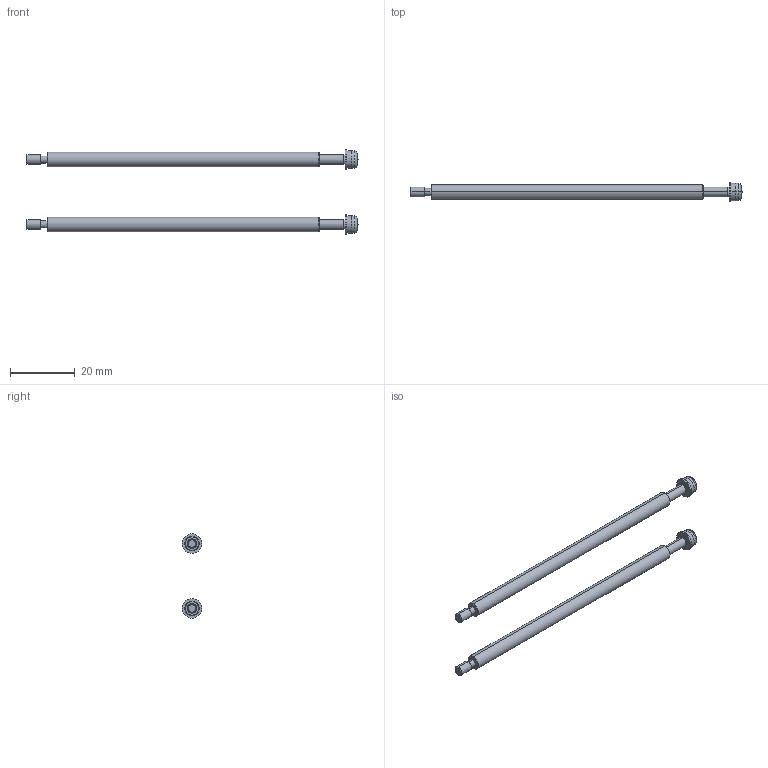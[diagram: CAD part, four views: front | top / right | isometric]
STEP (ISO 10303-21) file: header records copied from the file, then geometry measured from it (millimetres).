
FILE_DESCRIPTION( (''), '2;1');
FILE_NAME ('YS8Z-4.stp','2022-12-01T14:58:37',(''),(''),'spGate 12.6.6','','');
FILE_SCHEMA (('AUTOMOTIVE_DESIGN'));
Length unit declared in the file: millimetre
Products named in the file (3): Assembly; YS8Z-4-prt0; YS8Z-4-prt1
Assembly tree (4 placements, depth 2):
  Assembly
    YS8Z-4-prt0  x2
    YS8Z-4-prt1  x2
Bounding box: 102.4 x 6 x 26 mm (x, y, z)
Volume: 2934.7 mm3; surface area: 3237.1 mm2
Topology: 4 solids, 4 shells, 94 faces, 188 edges, 108 vertices
Faces by surface type: cylinder 40, bspline 32, plane 18, sphere 4
Entity records: 2150 total; most frequent: CARTESIAN_POINT 415, DIRECTION 182, ORIENTED_EDGE 180, COLOUR_RGB 139, PRESENTATION_STYLE_ASSIGNMENT 139, STYLED_ITEM 139, AXIS2_PLACEMENT_3D 91, EDGE_CURVE 90
